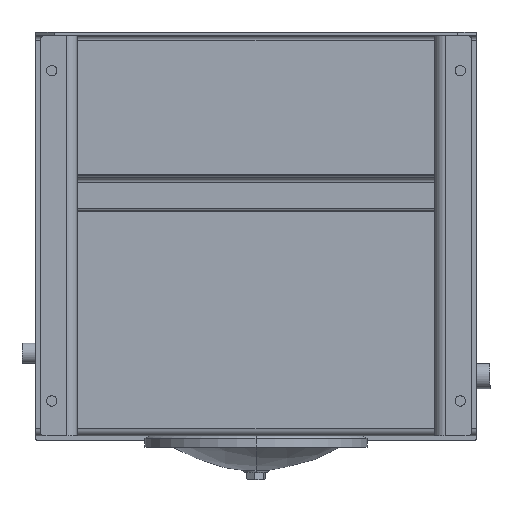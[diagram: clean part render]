
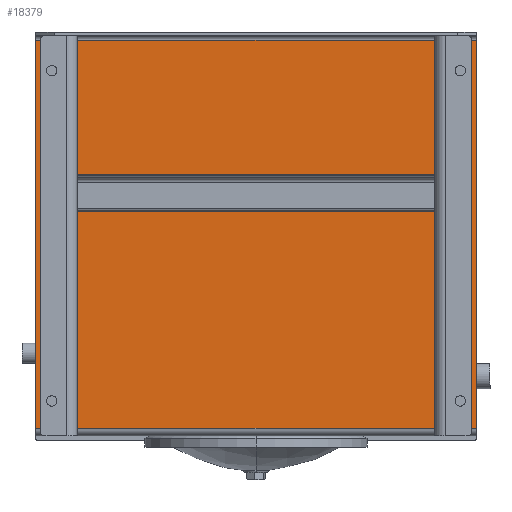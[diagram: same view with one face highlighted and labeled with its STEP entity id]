
A CAD part, front view. The second image highlights one B-rep face of the part: STEP entity #18379.
In plain terms, the highlighted planar face has unit normal (0, -1, 0).
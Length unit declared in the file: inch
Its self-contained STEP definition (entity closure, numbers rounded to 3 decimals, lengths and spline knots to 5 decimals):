
#511 = LINE ( 'NONE', #16570, #17188 ) ;
#1115 = DIRECTION ( 'NONE',  ( 0., 0., -1. ) ) ;
#2606 = VECTOR ( 'NONE', #8922, 39.37008 ) ;
#2774 = VERTEX_POINT ( 'NONE', #7716 ) ;
#3040 = ORIENTED_EDGE ( 'NONE', *, *, #13401, .T. ) ;
#3324 = CARTESIAN_POINT ( 'NONE',  ( -18.75115, -11.91269, 17.55873 ) ) ;
#3956 = PLANE ( 'NONE',  #17510 ) ;
#5023 = CARTESIAN_POINT ( 'NONE',  ( -18.75115, -11.91269, -3.58267 ) ) ;
#6160 = LINE ( 'NONE', #17743, #10709 ) ;
#7161 = LINE ( 'NONE', #19234, #2606 ) ;
#7716 = CARTESIAN_POINT ( 'NONE',  ( 5.24885, -11.91269, 17.55873 ) ) ;
#8922 = DIRECTION ( 'NONE',  ( 1., 0., 0. ) ) ;
#9001 = CARTESIAN_POINT ( 'NONE',  ( -18.75115, -11.91269, -4.01197 ) ) ;
#9062 = DIRECTION ( 'NONE',  ( 0., 0., -1. ) ) ;
#9190 = DIRECTION ( 'NONE',  ( 0., 0., 1. ) ) ;
#10639 = DIRECTION ( 'NONE',  ( 1., 0., 0. ) ) ;
#10709 = VECTOR ( 'NONE', #9190, 39.37008 ) ;
#10840 = FACE_OUTER_BOUND ( 'NONE', #12633, .T. ) ;
#12633 = EDGE_LOOP ( 'NONE', ( #19105, #3040, #13772, #16897 ) ) ;
#12704 = VERTEX_POINT ( 'NONE', #5023 ) ;
#13373 = EDGE_CURVE ( 'NONE', #15977, #2774, #7161, .T. ) ;
#13401 = EDGE_CURVE ( 'NONE', #12704, #18347, #15761, .T. ) ;
#13658 = EDGE_CURVE ( 'NONE', #2774, #18347, #511, .T. ) ;
#13772 = ORIENTED_EDGE ( 'NONE', *, *, #13658, .F. ) ;
#14037 = EDGE_CURVE ( 'NONE', #12704, #15977, #6160, .T. ) ;
#14119 = CARTESIAN_POINT ( 'NONE',  ( 5.24885, -11.91269, -3.58267 ) ) ;
#15758 = CARTESIAN_POINT ( 'NONE',  ( -18.75115, -11.91269, -3.58267 ) ) ;
#15761 = LINE ( 'NONE', #15758, #17957 ) ;
#15977 = VERTEX_POINT ( 'NONE', #3324 ) ;
#16570 = CARTESIAN_POINT ( 'NONE',  ( 5.24885, -11.91269, 17.98803 ) ) ;
#16897 = ORIENTED_EDGE ( 'NONE', *, *, #13373, .F. ) ;
#17188 = VECTOR ( 'NONE', #1115, 39.37008 ) ;
#17510 = AXIS2_PLACEMENT_3D ( 'NONE', #9001, #19397, #9062 ) ;
#17743 = CARTESIAN_POINT ( 'NONE',  ( -18.75115, -11.91269, 17.98803 ) ) ;
#17957 = VECTOR ( 'NONE', #10639, 39.37008 ) ;
#18347 = VERTEX_POINT ( 'NONE', #14119 ) ;
#18379 = ADVANCED_FACE ( 'NONE', ( #10840 ), #3956, .T. ) ;
#19105 = ORIENTED_EDGE ( 'NONE', *, *, #14037, .F. ) ;
#19234 = CARTESIAN_POINT ( 'NONE',  ( -18.75115, -11.91269, 17.55873 ) ) ;
#19397 = DIRECTION ( 'NONE',  ( 0., -1., 0. ) ) ;
